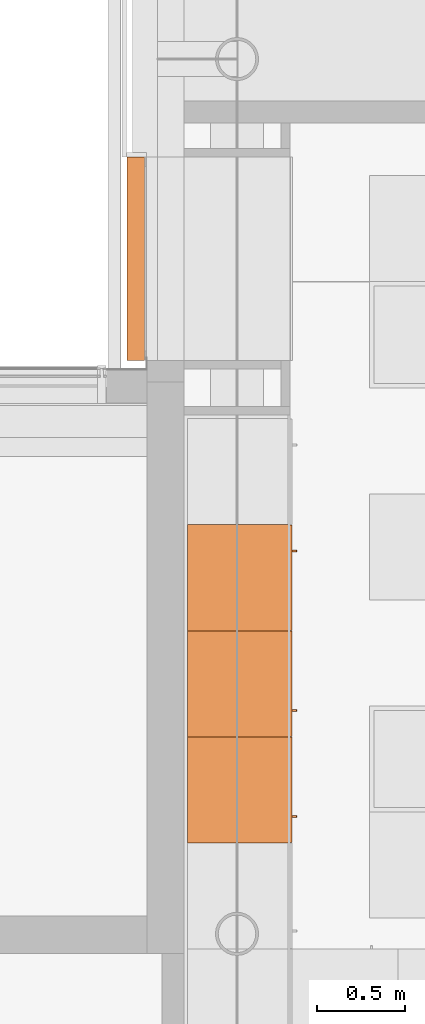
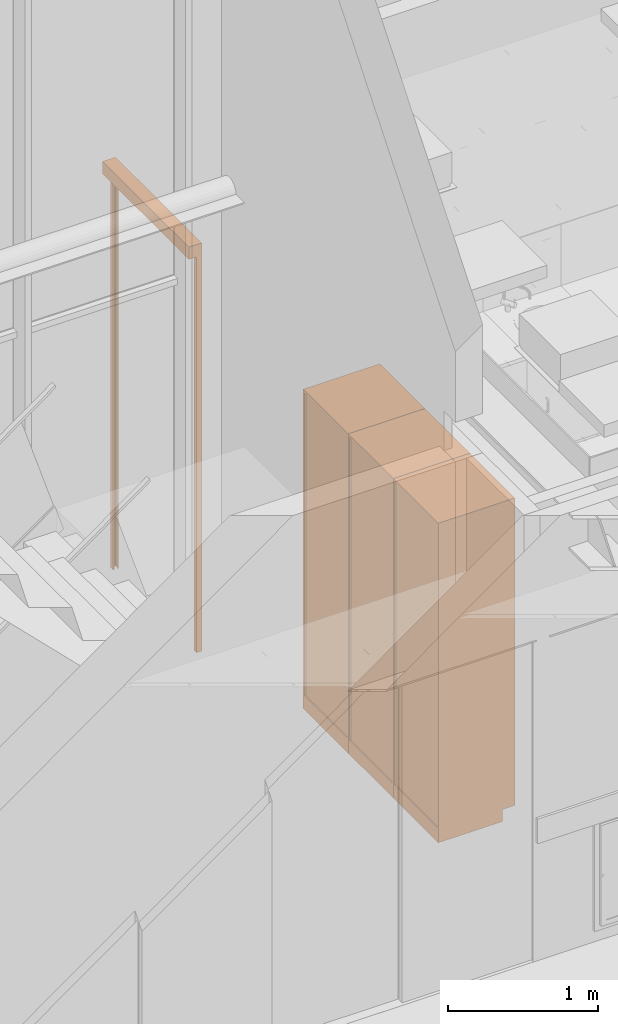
# One storey, part 342 of 347: 4 proxies.
"""IFC2X3 building model written with IfcOpenShell, lengths in millimetres."""

from ifc_helpers import new_model, entity, si_unit, converted_unit, derived_unit, money_unit, direction, frame, origin_with_axes, place, context, subcontext, project, spatial, open_shell, faceted_brep, surface_model, type_object, element, save


model = new_model("IFC2X3")

# Units and contexts
model_context = context("Model", 3, precision=0.01, world=origin_with_axes(), true_north=direction((0.0, 1.0)))
plan_context = context("Plan", 3, precision=0.01, world=origin_with_axes(), true_north=direction((0.0, 1.0)))
body_context = subcontext(model_context, "Body", "Model", "MODEL_VIEW")
ifc_project = project(units=[si_unit("LENGTHUNIT", "METRE", prefix="MILLI"), si_unit("AREAUNIT", "SQUARE_METRE"), si_unit("VOLUMEUNIT", "CUBIC_METRE"), converted_unit("PLANEANGLEUNIT", "DEGREE", entity("IfcPlaneAngleMeasure", 0.0174532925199), si_unit("PLANEANGLEUNIT", "RADIAN"), dimensions=[0, 0, 0, 0, 0, 0, 0]), money_unit("EUR"), converted_unit("TIMEUNIT", "Year", entity("IfcTimeMeasure", 31556926.0), si_unit("TIMEUNIT", "SECOND"), dimensions=[0, 0, 1, 0, 0, 0, 0]), si_unit("MASSUNIT", "GRAM", prefix="KILO"), si_unit("THERMODYNAMICTEMPERATUREUNIT", "DEGREE_CELSIUS"), si_unit("LUMINOUSINTENSITYUNIT", "LUMEN"), si_unit("ENERGYUNIT", "JOULE", prefix="MEGA"), derived_unit("THERMALCONDUCTANCEUNIT", [(si_unit("POWERUNIT", "WATT"), 1), (si_unit("LENGTHUNIT", "METRE"), -1), (si_unit("THERMODYNAMICTEMPERATUREUNIT", "KELVIN"), -1)]), derived_unit("SPECIFICHEATCAPACITYUNIT", [(si_unit("ENERGYUNIT", "JOULE"), 1), (si_unit("MASSUNIT", "GRAM", prefix="KILO"), -1), (si_unit("THERMODYNAMICTEMPERATUREUNIT", "KELVIN"), -1)]), derived_unit("MASSDENSITYUNIT", [(si_unit("MASSUNIT", "GRAM", prefix="KILO"), 1), (si_unit("VOLUMEUNIT", "CUBIC_METRE"), -1)])], contexts=[model_context, plan_context])

# Site, building, storey
site_placement = place(None, origin_with_axes())
site = spatial("IfcSite", under=ifc_project, at=site_placement, Name="Site", CompositionType="ELEMENT")
building_placement = place(site_placement, origin_with_axes())
building = spatial("IfcBuilding", under=site, at=building_placement, Name="Naam gebouw", CompositionType="ELEMENT")
storey_placement = place(building_placement, origin_with_axes())
storey = spatial("IfcBuildingStorey", under=building, at=storey_placement, Name="begane grond", CompositionType="ELEMENT", Elevation=0.0)

# Proxies
building_element_proxy_type_1 = type_object("IfcBuildingElementProxyType", Name="Onderkast recht 25", PredefinedType="NOTDEFINED")
proxy_1_placement = place(storey_placement, frame((24295.0, 17115.0, 0.0), z_axis=(0.0, 0.0, 1.0), x_axis=(0.0, 1.0, 0.0)))
element("IfcBuildingElementProxy", 1, at=proxy_1_placement, inside=storey, type_object=building_element_proxy_type_1, Name="_73 pantryblok", context=body_context, shape_type="Brep", body=[
    faceted_brep([(0.0, -492.0, 2.0), (600.0, -492.0, 2.0), (600.0, -492.0, 100.0), (0.0, -492.0, 100.0), (600.0, 0.0, 2.0), (0.0, 0.0, 2.0), (600.0, 0.0, 100.0), (0.0, 0.0, 100.0)], [[[0, 1, 2, 3]], [[4, 1, 0, 5]], [[1, 4, 6, 2]], [[7, 3, 2, 6]], [[5, 0, 3, 7]], [[4, 5, 7, 6]]]),
    faceted_brep([(446.0, -590.0, 1251.0), (446.0, -590.0, 1261.0), (456.0, -590.0, 1261.0), (456.0, -590.0, 1251.0), (446.0, -600.0, 1251.0), (446.0, -603.472963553, 1251.30384494), (446.0, -606.840402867, 1252.20614758), (446.0, -610.0, 1253.67949192), (446.0, -612.855752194, 1255.67911114), (446.0, -615.320888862, 1258.14424781), (446.0, -617.320508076, 1261.0), (446.0, -618.793852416, 1264.15959713), (446.0, -619.69615506, 1267.52703645), (446.0, -620.0, 1271.0), (446.0, -620.0, 1351.0), (446.0, -619.69615506, 1354.47296355), (446.0, -618.793852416, 1357.84040287), (446.0, -617.320508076, 1361.0), (446.0, -615.320888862, 1363.85575219), (446.0, -612.855752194, 1366.32088886), (446.0, -610.0, 1368.32050808), (446.0, -606.840402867, 1369.79385242), (446.0, -603.472963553, 1370.69615506), (446.0, -600.0, 1371.0), (446.0, -590.0, 1371.0), (446.0, -590.0, 1361.0), (446.0, -600.0, 1361.0), (446.0, -601.736481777, 1360.84807753), (446.0, -603.420201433, 1360.39692621), (446.0, -605.0, 1359.66025404), (446.0, -606.427876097, 1358.66044443), (446.0, -607.660444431, 1357.4278761), (446.0, -608.660254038, 1356.0), (446.0, -609.396926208, 1354.42020143), (446.0, -609.84807753, 1352.73648178), (446.0, -610.0, 1351.0), (446.0, -610.0, 1271.0), (446.0, -609.84807753, 1269.26351822), (446.0, -609.396926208, 1267.57979857), (446.0, -608.660254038, 1266.0), (446.0, -607.660444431, 1264.5721239), (446.0, -606.427876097, 1263.33955557), (446.0, -605.0, 1262.33974596), (446.0, -603.420201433, 1261.60307379), (446.0, -601.736481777, 1261.15192247), (446.0, -600.0, 1261.0), (456.0, -600.0, 1261.0), (456.0, -601.736481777, 1261.15192247), (456.0, -603.420201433, 1261.60307379), (456.0, -605.0, 1262.33974596), (456.0, -606.427876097, 1263.33955557), (456.0, -607.660444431, 1264.5721239), (456.0, -608.660254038, 1266.0), (456.0, -609.396926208, 1267.57979857), (456.0, -609.84807753, 1269.26351822), (456.0, -610.0, 1271.0), (456.0, -610.0, 1351.0), (456.0, -609.84807753, 1352.73648178), (456.0, -609.396926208, 1354.42020143), (456.0, -608.660254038, 1356.0), (456.0, -607.660444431, 1357.4278761), (456.0, -606.427876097, 1358.66044443), (456.0, -605.0, 1359.66025404), (456.0, -603.420201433, 1360.39692621), (456.0, -601.736481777, 1360.84807753), (456.0, -600.0, 1361.0), (456.0, -590.0, 1361.0), (456.0, -590.0, 1371.0), (456.0, -600.0, 1371.0), (456.0, -603.472963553, 1370.69615506), (456.0, -606.840402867, 1369.79385242), (456.0, -610.0, 1368.32050808), (456.0, -612.855752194, 1366.32088886), (456.0, -615.320888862, 1363.85575219), (456.0, -617.320508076, 1361.0), (456.0, -618.793852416, 1357.84040287), (456.0, -619.69615506, 1354.47296355), (456.0, -620.0, 1351.0), (456.0, -620.0, 1271.0), (456.0, -619.69615506, 1267.52703645), (456.0, -618.793852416, 1264.15959713), (456.0, -617.320508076, 1261.0), (456.0, -615.320888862, 1258.14424781), (456.0, -612.855752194, 1255.67911114), (456.0, -610.0, 1253.67949192), (456.0, -606.840402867, 1252.20614758), (456.0, -603.472963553, 1251.30384494), (456.0, -600.0, 1251.0)], [[[0, 1, 2, 3]], [[0, 4, 5, 6, 7, 8, 9, 10, 11, 12, 13, 14, 15, 16, 17, 18, 19, 20, 21, 22, 23, 24, 25, 26, 27, 28, 29, 30, 31, 32, 33, 34, 35, 36, 37, 38, 39, 40, 41, 42, 43, 44, 45, 1]], [[1, 45, 46, 2]], [[3, 2, 46, 47, 48, 49, 50, 51, 52, 53, 54, 55, 56, 57, 58, 59, 60, 61, 62, 63, 64, 65, 66, 67, 68, 69, 70, 71, 72, 73, 74, 75, 76, 77, 78, 79, 80, 81, 82, 83, 84, 85, 86, 87]], [[4, 0, 3, 87]], [[5, 4, 87, 86]], [[6, 5, 86, 85]], [[7, 6, 85, 84]], [[8, 7, 84, 83]], [[9, 8, 83, 82]], [[10, 9, 82, 81]], [[11, 10, 81, 80]], [[12, 11, 80, 79]], [[13, 12, 79, 78]], [[14, 13, 78, 77]], [[15, 14, 77, 76]], [[16, 15, 76, 75]], [[17, 16, 75, 74]], [[18, 17, 74, 73]], [[19, 18, 73, 72]], [[20, 19, 72, 71]], [[21, 20, 71, 70]], [[22, 21, 70, 69]], [[23, 22, 69, 68]], [[24, 23, 68, 67]], [[25, 24, 67, 66]], [[26, 25, 66, 65]], [[27, 26, 65, 64]], [[28, 27, 64, 63]], [[29, 28, 63, 62]], [[30, 29, 62, 61]], [[31, 30, 61, 60]], [[32, 31, 60, 59]], [[33, 32, 59, 58]], [[34, 33, 58, 57]], [[35, 34, 57, 56]], [[36, 35, 56, 55]], [[37, 36, 55, 54]], [[38, 37, 54, 53]], [[39, 38, 53, 52]], [[40, 39, 52, 51]], [[41, 40, 51, 50]], [[42, 41, 50, 49]], [[43, 42, 49, 48]], [[44, 43, 48, 47]], [[45, 44, 47, 46]]]),
    faceted_brep([(1.0, -572.0, 101.0), (599.0, -572.0, 101.0), (599.0, -590.0, 101.0), (1.0, -590.0, 101.0), (1.0, -572.0, 2599.0), (599.0, -572.0, 2599.0), (599.0, -590.0, 2599.0), (1.0, -590.0, 2599.0)], [[[0, 1, 2, 3]], [[0, 4, 5, 1]], [[1, 5, 6, 2]], [[3, 2, 6, 7]], [[4, 0, 3, 7]], [[5, 4, 7, 6]]]),
    faceted_brep([(18.0, -572.0, 100.0), (582.0, -572.0, 100.0), (582.0, -572.0, 118.0), (18.0, -572.0, 118.0), (18.0, 0.0, 100.0), (582.0, 0.0, 100.0), (582.0, 0.0, 118.0), (18.0, 0.0, 118.0)], [[[0, 1, 2, 3]], [[0, 4, 5, 1]], [[1, 5, 6, 2]], [[3, 2, 6, 7]], [[4, 0, 3, 7]], [[5, 4, 7, 6]]]),
    faceted_brep([(18.0, -572.0, 2582.0), (582.0, -572.0, 2582.0), (582.0, -572.0, 2600.0), (18.0, -572.0, 2600.0), (18.0, 0.0, 2582.0), (582.0, 0.0, 2582.0), (582.0, 0.0, 2600.0), (18.0, 0.0, 2600.0)], [[[0, 1, 2, 3]], [[0, 4, 5, 1]], [[1, 5, 6, 2]], [[3, 2, 6, 7]], [[4, 0, 3, 7]], [[5, 4, 7, 6]]]),
    faceted_brep([(0.0, 0.0, 100.0), (0.0, -572.0, 100.0), (0.0, -572.0, 2600.0), (0.0, 0.0, 2600.0), (18.0, 0.0, 100.0), (18.0, -572.0, 100.0), (18.0, -572.0, 2600.0), (18.0, 0.0, 2600.0)], [[[0, 1, 2, 3]], [[0, 4, 5, 1]], [[1, 5, 6, 2]], [[3, 2, 6, 7]], [[4, 0, 3, 7]], [[5, 4, 7, 6]]]),
    faceted_brep([(600.0, -572.0, 100.0), (600.0, 0.0, 100.0), (600.0, 0.0, 2600.0), (600.0, -572.0, 2600.0), (582.0, -572.0, 100.0), (582.0, 0.0, 100.0), (582.0, 0.0, 2600.0), (582.0, -572.0, 2600.0)], [[[0, 1, 2, 3]], [[0, 4, 5, 1]], [[1, 5, 6, 2]], [[3, 2, 6, 7]], [[4, 0, 3, 7]], [[5, 4, 7, 6]]]),
    faceted_brep([(582.0, -9.0, 118.0), (18.0, -9.0, 118.0), (18.0, -9.0, 2582.0), (582.0, -9.0, 2582.0), (582.0, -18.0, 118.0), (18.0, -18.0, 118.0), (18.0, -18.0, 2582.0), (582.0, -18.0, 2582.0)], [[[0, 1, 2, 3]], [[0, 4, 5, 1]], [[1, 5, 6, 2]], [[3, 2, 6, 7]], [[4, 0, 3, 7]], [[5, 4, 7, 6]]]),
])
proxy_2_placement = place(storey_placement, frame((24295.0, 17115.0, 0.0), z_axis=(0.0, 0.0, 1.0), x_axis=(0.0, 1.0, 0.0)))
element("IfcBuildingElementProxy", 2, at=proxy_2_placement, inside=storey, type_object=building_element_proxy_type_1, Name="_73 pantryblok", context=body_context, shape_type="Brep", body=[
    faceted_brep([(-600.0, -492.0, 2.0), (0.0, -492.0, 2.0), (0.0, -492.0, 100.0), (-600.0, -492.0, 100.0), (0.0, 0.0, 2.0), (-600.0, 0.0, 2.0), (0.0, 0.0, 100.0), (-600.0, 0.0, 100.0)], [[[0, 1, 2, 3]], [[4, 1, 0, 5]], [[1, 4, 6, 2]], [[3, 2, 6, 7]], [[5, 0, 3, 7]], [[4, 5, 7, 6]]]),
    faceted_brep([(-446.0, -590.0, 1251.0), (-456.0, -590.0, 1251.0), (-456.0, -590.0, 1261.0), (-446.0, -590.0, 1261.0), (-446.0, -600.0, 1251.0), (-456.0, -600.0, 1251.0), (-456.0, -603.472963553, 1251.30384494), (-456.0, -606.840402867, 1252.20614758), (-456.0, -610.0, 1253.67949192), (-456.0, -612.855752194, 1255.67911114), (-456.0, -615.320888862, 1258.14424781), (-456.0, -617.320508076, 1261.0), (-456.0, -618.793852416, 1264.15959713), (-456.0, -619.69615506, 1267.52703645), (-456.0, -620.0, 1271.0), (-456.0, -620.0, 1351.0), (-456.0, -619.69615506, 1354.47296355), (-456.0, -618.793852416, 1357.84040287), (-456.0, -617.320508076, 1361.0), (-456.0, -615.320888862, 1363.85575219), (-456.0, -612.855752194, 1366.32088886), (-456.0, -610.0, 1368.32050808), (-456.0, -606.840402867, 1369.79385242), (-456.0, -603.472963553, 1370.69615506), (-456.0, -600.0, 1371.0), (-456.0, -590.0, 1371.0), (-456.0, -590.0, 1361.0), (-456.0, -600.0, 1361.0), (-456.0, -601.736481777, 1360.84807753), (-456.0, -603.420201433, 1360.39692621), (-456.0, -605.0, 1359.66025404), (-456.0, -606.427876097, 1358.66044443), (-456.0, -607.660444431, 1357.4278761), (-456.0, -608.660254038, 1356.0), (-456.0, -609.396926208, 1354.42020143), (-456.0, -609.84807753, 1352.73648178), (-456.0, -610.0, 1351.0), (-456.0, -610.0, 1271.0), (-456.0, -609.84807753, 1269.26351822), (-456.0, -609.396926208, 1267.57979857), (-456.0, -608.660254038, 1266.0), (-456.0, -607.660444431, 1264.5721239), (-456.0, -606.427876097, 1263.33955557), (-456.0, -605.0, 1262.33974596), (-456.0, -603.420201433, 1261.60307379), (-456.0, -601.736481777, 1261.15192247), (-456.0, -600.0, 1261.0), (-446.0, -600.0, 1261.0), (-446.0, -601.736481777, 1261.15192247), (-446.0, -603.420201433, 1261.60307379), (-446.0, -605.0, 1262.33974596), (-446.0, -606.427876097, 1263.33955557), (-446.0, -607.660444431, 1264.5721239), (-446.0, -608.660254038, 1266.0), (-446.0, -609.396926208, 1267.57979857), (-446.0, -609.84807753, 1269.26351822), (-446.0, -610.0, 1271.0), (-446.0, -610.0, 1351.0), (-446.0, -609.84807753, 1352.73648178), (-446.0, -609.396926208, 1354.42020143), (-446.0, -608.660254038, 1356.0), (-446.0, -607.660444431, 1357.4278761), (-446.0, -606.427876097, 1358.66044443), (-446.0, -605.0, 1359.66025404), (-446.0, -603.420201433, 1360.39692621), (-446.0, -601.736481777, 1360.84807753), (-446.0, -600.0, 1361.0), (-446.0, -590.0, 1361.0), (-446.0, -590.0, 1371.0), (-446.0, -600.0, 1371.0), (-446.0, -603.472963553, 1370.69615506), (-446.0, -606.840402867, 1369.79385242), (-446.0, -610.0, 1368.32050808), (-446.0, -612.855752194, 1366.32088886), (-446.0, -615.320888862, 1363.85575219), (-446.0, -617.320508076, 1361.0), (-446.0, -618.793852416, 1357.84040287), (-446.0, -619.69615506, 1354.47296355), (-446.0, -620.0, 1351.0), (-446.0, -620.0, 1271.0), (-446.0, -619.69615506, 1267.52703645), (-446.0, -618.793852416, 1264.15959713), (-446.0, -617.320508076, 1261.0), (-446.0, -615.320888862, 1258.14424781), (-446.0, -612.855752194, 1255.67911114), (-446.0, -610.0, 1253.67949192), (-446.0, -606.840402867, 1252.20614758), (-446.0, -603.472963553, 1251.30384494)], [[[0, 1, 2, 3]], [[4, 5, 1, 0]], [[1, 5, 6, 7, 8, 9, 10, 11, 12, 13, 14, 15, 16, 17, 18, 19, 20, 21, 22, 23, 24, 25, 26, 27, 28, 29, 30, 31, 32, 33, 34, 35, 36, 37, 38, 39, 40, 41, 42, 43, 44, 45, 46, 2]], [[3, 2, 46, 47]], [[0, 3, 47, 48, 49, 50, 51, 52, 53, 54, 55, 56, 57, 58, 59, 60, 61, 62, 63, 64, 65, 66, 67, 68, 69, 70, 71, 72, 73, 74, 75, 76, 77, 78, 79, 80, 81, 82, 83, 84, 85, 86, 87, 4]], [[87, 6, 5, 4]], [[86, 7, 6, 87]], [[85, 8, 7, 86]], [[84, 9, 8, 85]], [[83, 10, 9, 84]], [[82, 11, 10, 83]], [[81, 12, 11, 82]], [[80, 13, 12, 81]], [[79, 14, 13, 80]], [[78, 15, 14, 79]], [[77, 16, 15, 78]], [[76, 17, 16, 77]], [[75, 18, 17, 76]], [[74, 19, 18, 75]], [[73, 20, 19, 74]], [[72, 21, 20, 73]], [[71, 22, 21, 72]], [[70, 23, 22, 71]], [[69, 24, 23, 70]], [[68, 25, 24, 69]], [[67, 26, 25, 68]], [[66, 27, 26, 67]], [[65, 28, 27, 66]], [[64, 29, 28, 65]], [[63, 30, 29, 64]], [[62, 31, 30, 63]], [[61, 32, 31, 62]], [[60, 33, 32, 61]], [[59, 34, 33, 60]], [[58, 35, 34, 59]], [[57, 36, 35, 58]], [[56, 37, 36, 57]], [[55, 38, 37, 56]], [[54, 39, 38, 55]], [[53, 40, 39, 54]], [[52, 41, 40, 53]], [[51, 42, 41, 52]], [[50, 43, 42, 51]], [[49, 44, 43, 50]], [[48, 45, 44, 49]], [[47, 46, 45, 48]]]),
    faceted_brep([(-1.0, -572.0, 101.0), (-1.0, -590.0, 101.0), (-599.0, -590.0, 101.0), (-599.0, -572.0, 101.0), (-1.0, -572.0, 2599.0), (-1.0, -590.0, 2599.0), (-599.0, -590.0, 2599.0), (-599.0, -572.0, 2599.0)], [[[0, 1, 2, 3]], [[4, 5, 1, 0]], [[1, 5, 6, 2]], [[3, 2, 6, 7]], [[0, 3, 7, 4]], [[7, 6, 5, 4]]]),
    faceted_brep([(-18.0, -572.0, 100.0), (-18.0, -572.0, 118.0), (-582.0, -572.0, 118.0), (-582.0, -572.0, 100.0), (-18.0, 0.0, 100.0), (-18.0, 0.0, 118.0), (-582.0, 0.0, 118.0), (-582.0, 0.0, 100.0)], [[[0, 1, 2, 3]], [[4, 5, 1, 0]], [[1, 5, 6, 2]], [[3, 2, 6, 7]], [[0, 3, 7, 4]], [[7, 6, 5, 4]]]),
    faceted_brep([(-18.0, -572.0, 2582.0), (-18.0, -572.0, 2600.0), (-582.0, -572.0, 2600.0), (-582.0, -572.0, 2582.0), (-18.0, 0.0, 2582.0), (-18.0, 0.0, 2600.0), (-582.0, 0.0, 2600.0), (-582.0, 0.0, 2582.0)], [[[0, 1, 2, 3]], [[4, 5, 1, 0]], [[1, 5, 6, 2]], [[3, 2, 6, 7]], [[0, 3, 7, 4]], [[7, 6, 5, 4]]]),
    faceted_brep([(0.0, 0.0, 100.0), (0.0, 0.0, 2600.0), (0.0, -572.0, 2600.0), (0.0, -572.0, 100.0), (-18.0, 0.0, 100.0), (-18.0, 0.0, 2600.0), (-18.0, -572.0, 2600.0), (-18.0, -572.0, 100.0)], [[[0, 1, 2, 3]], [[4, 5, 1, 0]], [[1, 5, 6, 2]], [[3, 2, 6, 7]], [[0, 3, 7, 4]], [[7, 6, 5, 4]]]),
    faceted_brep([(-600.0, -572.0, 100.0), (-600.0, -572.0, 2600.0), (-600.0, 0.0, 2600.0), (-600.0, 0.0, 100.0), (-582.0, -572.0, 100.0), (-582.0, -572.0, 2600.0), (-582.0, 0.0, 2600.0), (-582.0, 0.0, 100.0)], [[[0, 1, 2, 3]], [[4, 5, 1, 0]], [[1, 5, 6, 2]], [[3, 2, 6, 7]], [[0, 3, 7, 4]], [[7, 6, 5, 4]]]),
    faceted_brep([(-582.0, -9.0, 118.0), (-582.0, -9.0, 2582.0), (-18.0, -9.0, 2582.0), (-18.0, -9.0, 118.0), (-582.0, -18.0, 118.0), (-582.0, -18.0, 2582.0), (-18.0, -18.0, 2582.0), (-18.0, -18.0, 118.0)], [[[0, 1, 2, 3]], [[4, 5, 1, 0]], [[1, 5, 6, 2]], [[3, 2, 6, 7]], [[0, 3, 7, 4]], [[7, 6, 5, 4]]]),
])
proxy_3_placement = place(storey_placement, frame((24295.0, 16515.0, 0.0), z_axis=(0.0, 0.0, 1.0), x_axis=(0.0, 1.0, 0.0)))
element("IfcBuildingElementProxy", 3, at=proxy_3_placement, inside=storey, type_object=building_element_proxy_type_1, Name="_73 pantryblok", context=body_context, shape_type="Brep", body=[
    faceted_brep([(-600.0, -492.0, 2.0), (0.0, -492.0, 2.0), (0.0, -492.0, 100.0), (-600.0, -492.0, 100.0), (0.0, 0.0, 2.0), (-600.0, 0.0, 2.0), (0.0, 0.0, 100.0), (-600.0, 0.0, 100.0)], [[[0, 1, 2, 3]], [[4, 1, 0, 5]], [[1, 4, 6, 2]], [[3, 2, 6, 7]], [[5, 0, 3, 7]], [[4, 5, 7, 6]]]),
    faceted_brep([(-446.0, -590.0, 1251.0), (-456.0, -590.0, 1251.0), (-456.0, -590.0, 1261.0), (-446.0, -590.0, 1261.0), (-446.0, -600.0, 1251.0), (-456.0, -600.0, 1251.0), (-456.0, -603.472963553, 1251.30384494), (-456.0, -606.840402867, 1252.20614758), (-456.0, -610.0, 1253.67949192), (-456.0, -612.855752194, 1255.67911114), (-456.0, -615.320888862, 1258.14424781), (-456.0, -617.320508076, 1261.0), (-456.0, -618.793852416, 1264.15959713), (-456.0, -619.69615506, 1267.52703645), (-456.0, -620.0, 1271.0), (-456.0, -620.0, 1351.0), (-456.0, -619.69615506, 1354.47296355), (-456.0, -618.793852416, 1357.84040287), (-456.0, -617.320508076, 1361.0), (-456.0, -615.320888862, 1363.85575219), (-456.0, -612.855752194, 1366.32088886), (-456.0, -610.0, 1368.32050808), (-456.0, -606.840402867, 1369.79385242), (-456.0, -603.472963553, 1370.69615506), (-456.0, -600.0, 1371.0), (-456.0, -590.0, 1371.0), (-456.0, -590.0, 1361.0), (-456.0, -600.0, 1361.0), (-456.0, -601.736481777, 1360.84807753), (-456.0, -603.420201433, 1360.39692621), (-456.0, -605.0, 1359.66025404), (-456.0, -606.427876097, 1358.66044443), (-456.0, -607.660444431, 1357.4278761), (-456.0, -608.660254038, 1356.0), (-456.0, -609.396926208, 1354.42020143), (-456.0, -609.84807753, 1352.73648178), (-456.0, -610.0, 1351.0), (-456.0, -610.0, 1271.0), (-456.0, -609.84807753, 1269.26351822), (-456.0, -609.396926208, 1267.57979857), (-456.0, -608.660254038, 1266.0), (-456.0, -607.660444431, 1264.5721239), (-456.0, -606.427876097, 1263.33955557), (-456.0, -605.0, 1262.33974596), (-456.0, -603.420201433, 1261.60307379), (-456.0, -601.736481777, 1261.15192247), (-456.0, -600.0, 1261.0), (-446.0, -600.0, 1261.0), (-446.0, -601.736481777, 1261.15192247), (-446.0, -603.420201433, 1261.60307379), (-446.0, -605.0, 1262.33974596), (-446.0, -606.427876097, 1263.33955557), (-446.0, -607.660444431, 1264.5721239), (-446.0, -608.660254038, 1266.0), (-446.0, -609.396926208, 1267.57979857), (-446.0, -609.84807753, 1269.26351822), (-446.0, -610.0, 1271.0), (-446.0, -610.0, 1351.0), (-446.0, -609.84807753, 1352.73648178), (-446.0, -609.396926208, 1354.42020143), (-446.0, -608.660254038, 1356.0), (-446.0, -607.660444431, 1357.4278761), (-446.0, -606.427876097, 1358.66044443), (-446.0, -605.0, 1359.66025404), (-446.0, -603.420201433, 1360.39692621), (-446.0, -601.736481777, 1360.84807753), (-446.0, -600.0, 1361.0), (-446.0, -590.0, 1361.0), (-446.0, -590.0, 1371.0), (-446.0, -600.0, 1371.0), (-446.0, -603.472963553, 1370.69615506), (-446.0, -606.840402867, 1369.79385242), (-446.0, -610.0, 1368.32050808), (-446.0, -612.855752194, 1366.32088886), (-446.0, -615.320888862, 1363.85575219), (-446.0, -617.320508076, 1361.0), (-446.0, -618.793852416, 1357.84040287), (-446.0, -619.69615506, 1354.47296355), (-446.0, -620.0, 1351.0), (-446.0, -620.0, 1271.0), (-446.0, -619.69615506, 1267.52703645), (-446.0, -618.793852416, 1264.15959713), (-446.0, -617.320508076, 1261.0), (-446.0, -615.320888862, 1258.14424781), (-446.0, -612.855752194, 1255.67911114), (-446.0, -610.0, 1253.67949192), (-446.0, -606.840402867, 1252.20614758), (-446.0, -603.472963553, 1251.30384494)], [[[0, 1, 2, 3]], [[4, 5, 1, 0]], [[1, 5, 6, 7, 8, 9, 10, 11, 12, 13, 14, 15, 16, 17, 18, 19, 20, 21, 22, 23, 24, 25, 26, 27, 28, 29, 30, 31, 32, 33, 34, 35, 36, 37, 38, 39, 40, 41, 42, 43, 44, 45, 46, 2]], [[3, 2, 46, 47]], [[0, 3, 47, 48, 49, 50, 51, 52, 53, 54, 55, 56, 57, 58, 59, 60, 61, 62, 63, 64, 65, 66, 67, 68, 69, 70, 71, 72, 73, 74, 75, 76, 77, 78, 79, 80, 81, 82, 83, 84, 85, 86, 87, 4]], [[87, 6, 5, 4]], [[86, 7, 6, 87]], [[85, 8, 7, 86]], [[84, 9, 8, 85]], [[83, 10, 9, 84]], [[82, 11, 10, 83]], [[81, 12, 11, 82]], [[80, 13, 12, 81]], [[79, 14, 13, 80]], [[78, 15, 14, 79]], [[77, 16, 15, 78]], [[76, 17, 16, 77]], [[75, 18, 17, 76]], [[74, 19, 18, 75]], [[73, 20, 19, 74]], [[72, 21, 20, 73]], [[71, 22, 21, 72]], [[70, 23, 22, 71]], [[69, 24, 23, 70]], [[68, 25, 24, 69]], [[67, 26, 25, 68]], [[66, 27, 26, 67]], [[65, 28, 27, 66]], [[64, 29, 28, 65]], [[63, 30, 29, 64]], [[62, 31, 30, 63]], [[61, 32, 31, 62]], [[60, 33, 32, 61]], [[59, 34, 33, 60]], [[58, 35, 34, 59]], [[57, 36, 35, 58]], [[56, 37, 36, 57]], [[55, 38, 37, 56]], [[54, 39, 38, 55]], [[53, 40, 39, 54]], [[52, 41, 40, 53]], [[51, 42, 41, 52]], [[50, 43, 42, 51]], [[49, 44, 43, 50]], [[48, 45, 44, 49]], [[47, 46, 45, 48]]]),
    faceted_brep([(-1.0, -572.0, 101.0), (-1.0, -590.0, 101.0), (-599.0, -590.0, 101.0), (-599.0, -572.0, 101.0), (-1.0, -572.0, 2599.0), (-1.0, -590.0, 2599.0), (-599.0, -590.0, 2599.0), (-599.0, -572.0, 2599.0)], [[[0, 1, 2, 3]], [[4, 5, 1, 0]], [[1, 5, 6, 2]], [[3, 2, 6, 7]], [[0, 3, 7, 4]], [[7, 6, 5, 4]]]),
    faceted_brep([(-18.0, -572.0, 100.0), (-18.0, -572.0, 118.0), (-582.0, -572.0, 118.0), (-582.0, -572.0, 100.0), (-18.0, 0.0, 100.0), (-18.0, 0.0, 118.0), (-582.0, 0.0, 118.0), (-582.0, 0.0, 100.0)], [[[0, 1, 2, 3]], [[4, 5, 1, 0]], [[1, 5, 6, 2]], [[3, 2, 6, 7]], [[0, 3, 7, 4]], [[7, 6, 5, 4]]]),
    faceted_brep([(-18.0, -572.0, 2582.0), (-18.0, -572.0, 2600.0), (-582.0, -572.0, 2600.0), (-582.0, -572.0, 2582.0), (-18.0, 0.0, 2582.0), (-18.0, 0.0, 2600.0), (-582.0, 0.0, 2600.0), (-582.0, 0.0, 2582.0)], [[[0, 1, 2, 3]], [[4, 5, 1, 0]], [[1, 5, 6, 2]], [[3, 2, 6, 7]], [[0, 3, 7, 4]], [[7, 6, 5, 4]]]),
    faceted_brep([(0.0, 0.0, 100.0), (0.0, 0.0, 2600.0), (0.0, -572.0, 2600.0), (0.0, -572.0, 100.0), (-18.0, 0.0, 100.0), (-18.0, 0.0, 2600.0), (-18.0, -572.0, 2600.0), (-18.0, -572.0, 100.0)], [[[0, 1, 2, 3]], [[4, 5, 1, 0]], [[1, 5, 6, 2]], [[3, 2, 6, 7]], [[0, 3, 7, 4]], [[7, 6, 5, 4]]]),
    faceted_brep([(-600.0, -572.0, 100.0), (-600.0, -572.0, 2600.0), (-600.0, 0.0, 2600.0), (-600.0, 0.0, 100.0), (-582.0, -572.0, 100.0), (-582.0, -572.0, 2600.0), (-582.0, 0.0, 2600.0), (-582.0, 0.0, 100.0)], [[[0, 1, 2, 3]], [[4, 5, 1, 0]], [[1, 5, 6, 2]], [[3, 2, 6, 7]], [[0, 3, 7, 4]], [[7, 6, 5, 4]]]),
    faceted_brep([(-582.0, -9.0, 118.0), (-582.0, -9.0, 2582.0), (-18.0, -9.0, 2582.0), (-18.0, -9.0, 118.0), (-582.0, -18.0, 118.0), (-582.0, -18.0, 2582.0), (-18.0, -18.0, 2582.0), (-18.0, -18.0, 118.0)], [[[0, 1, 2, 3]], [[4, 5, 1, 0]], [[1, 5, 6, 2]], [[3, 2, 6, 7]], [[0, 3, 7, 4]], [[7, 6, 5, 4]]]),
])
building_element_proxy_type_2 = type_object("IfcBuildingElementProxyType", Name="Screen 25 KM", PredefinedType="NOTDEFINED")
proxy_4_placement = place(storey_placement, frame((24052.0, 18645.0, -10.0), z_axis=(0.0, 0.0, 1.0), x_axis=(0.0, -1.0, 0.0)))
element("IfcBuildingElementProxy", 4, at=proxy_4_placement, inside=storey, type_object=building_element_proxy_type_2, Name="_78 garderobe", context=body_context, shape_type="SurfaceModel", body=[
    faceted_brep([(0.0, 0.0, 0.0), (0.0, 0.0, 3220.0), (0.0, -40.0, 3220.0), (0.0, -40.0, 0.0), (-38.0, 0.0, 0.0), (-38.0, 0.0, 3220.0), (-38.0, -10.0, 3220.0), (-35.0, -10.0, 3220.0), (-35.0, -3.0, 3220.0), (-3.0, -3.0, 3220.0), (-3.0, -37.0, 3220.0), (-35.0, -37.0, 3220.0), (-35.0, -30.0, 3220.0), (-38.0, -30.0, 3220.0), (-38.0, -40.0, 3220.0), (-38.0, -40.0, 0.0), (-38.0, -30.0, 0.0), (-35.0, -30.0, 0.0), (-35.0, -37.0, 0.0), (-3.0, -37.0, 0.0), (-3.0, -3.0, 0.0), (-35.0, -3.0, 0.0), (-35.0, -10.0, 0.0), (-38.0, -10.0, 0.0)], [[[0, 1, 2, 3]], [[4, 5, 1, 0]], [[1, 5, 6, 7, 8, 9, 10, 11, 12, 13, 14, 2]], [[3, 2, 14, 15]], [[0, 3, 15, 16, 17, 18, 19, 20, 21, 22, 23, 4]], [[23, 6, 5, 4]], [[22, 7, 6, 23]], [[21, 8, 7, 22]], [[20, 9, 8, 21]], [[19, 10, 9, 20]], [[18, 11, 10, 19]], [[17, 12, 11, 18]], [[16, 13, 12, 17]], [[15, 14, 13, 16]]]),
    faceted_brep([(-1150.0, 0.0, 0.0), (-1150.0, -40.0, 0.0), (-1150.0, -40.0, 3220.0), (-1150.0, 0.0, 3220.0), (-1112.0, 0.0, 0.0), (-1112.0, -10.0, 0.0), (-1115.0, -10.0, 0.0), (-1115.0, -3.0, 0.0), (-1147.0, -3.0, 0.0), (-1147.0, -37.0, 0.0), (-1115.0, -37.0, 0.0), (-1115.0, -30.0, 0.0), (-1112.0, -30.0, 0.0), (-1112.0, -40.0, 0.0), (-1112.0, -40.0, 3220.0), (-1112.0, -30.0, 3220.0), (-1115.0, -30.0, 3220.0), (-1115.0, -37.0, 3220.0), (-1147.0, -37.0, 3220.0), (-1147.0, -3.0, 3220.0), (-1115.0, -3.0, 3220.0), (-1115.0, -10.0, 3220.0), (-1112.0, -10.0, 3220.0), (-1112.0, 0.0, 3220.0)], [[[0, 1, 2, 3]], [[0, 4, 5, 6, 7, 8, 9, 10, 11, 12, 13, 1]], [[1, 13, 14, 2]], [[3, 2, 14, 15, 16, 17, 18, 19, 20, 21, 22, 23]], [[4, 0, 3, 23]], [[5, 4, 23, 22]], [[6, 5, 22, 21]], [[7, 6, 21, 20]], [[8, 7, 20, 19]], [[9, 8, 19, 18]], [[10, 9, 18, 17]], [[11, 10, 17, 16]], [[12, 11, 16, 15]], [[13, 12, 15, 14]]]),
    surface_model("IfcShellBasedSurfaceModel", [(0.0, 0.0, 3320.0), (0.0, -100.0, 3320.0), (0.0, -100.0, 3220.0), (0.0, 0.0, 3220.0)], [open_shell([[[0, 1, 2, 3]]])]),
    surface_model("IfcShellBasedSurfaceModel", [(-0.01, 0.0, 3320.0), (-1149.99, 0.0, 3320.0), (-1149.99, -100.0, 3320.0), (-0.00999999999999, -100.0, 3320.0), (-0.01, 0.0, 3223.0), (-1149.99, 0.0, 3223.0), (-1149.99, -6.0, 3223.0), (-1149.99, -6.0, 3226.0), (-1149.99, -3.0, 3226.0), (-1149.99, -3.0, 3317.0), (-1149.99, -97.0, 3317.0), (-1149.99, -97.0, 3223.0), (-1149.99, -40.0, 3223.0), (-1149.99, -40.0, 3217.0), (-1149.99, -43.0, 3217.0), (-1149.99, -43.0, 3220.0), (-1149.99, -100.0, 3220.0), (-0.01, -100.0, 3220.0), (-0.01, -43.0, 3220.0), (-0.01, -43.0, 3217.0), (-0.01, -40.0, 3217.0), (-0.01, -40.0, 3223.0), (-0.01, -97.0, 3223.0), (-0.00999999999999, -97.0, 3317.0), (-0.01, -3.0, 3317.0), (-0.01, -3.0, 3226.0), (-0.01, -6.0, 3226.0), (-0.01, -6.0, 3223.0)], [open_shell([[[0, 1, 2, 3]], [[4, 5, 1, 0]], [[1, 5, 6, 7, 8, 9, 10, 11, 12, 13, 14, 15, 16, 2]], [[3, 2, 16, 17]], [[0, 3, 17, 18, 19, 20, 21, 22, 23, 24, 25, 26, 27, 4]], [[19, 14, 13, 20]], [[18, 15, 14, 19]], [[17, 16, 15, 18]]])]),
    surface_model("IfcShellBasedSurfaceModel", [(-1149.99, 0.0, 3320.0), (-1149.99, -100.0, 3320.0), (-1149.99, -100.0, 3220.0), (-1149.99, 0.0, 3220.0)], [open_shell([[[0, 1, 2, 3]]])]),
])

save(model, "model.ifc")
